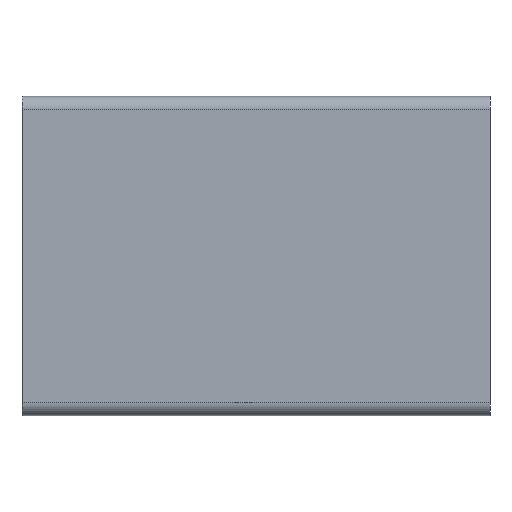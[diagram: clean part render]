
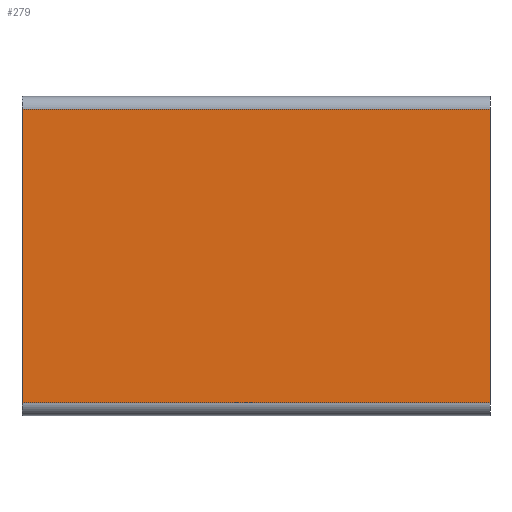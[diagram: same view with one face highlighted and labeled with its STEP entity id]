
A CAD part, front view. The second image highlights one B-rep face of the part: STEP entity #279.
In plain terms, the highlighted planar face has unit normal (0, -1, 0).
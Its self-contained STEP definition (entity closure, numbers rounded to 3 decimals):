
#39 = EDGE_CURVE('',#40,#42,#44,.T.);
#40 = VERTEX_POINT('',#41);
#41 = CARTESIAN_POINT('',(-11.,-0.75,-6.9));
#42 = VERTEX_POINT('',#43);
#43 = CARTESIAN_POINT('',(-11.,-0.75,6.9));
#44 = SURFACE_CURVE('',#45,(#49,#61),.PCURVE_S1.);
#45 = LINE('',#46,#47);
#46 = CARTESIAN_POINT('',(-11.,-0.75,-7.5));
#47 = VECTOR('',#48,1.);
#48 = DIRECTION('',(0.,0.,1.));
#49 = PCURVE('',#50,#55);
#50 = PLANE('',#51);
#51 = AXIS2_PLACEMENT_3D('',#52,#53,#54);
#52 = CARTESIAN_POINT('',(-11.,-0.75,-7.5));
#53 = DIRECTION('',(1.,0.,-0.));
#54 = DIRECTION('',(0.,0.,1.));
#55 = DEFINITIONAL_REPRESENTATION('',(#56),#60);
#56 = LINE('',#57,#58);
#57 = CARTESIAN_POINT('',(0.,0.));
#58 = VECTOR('',#59,1.);
#59 = DIRECTION('',(1.,0.));
#60 = ( GEOMETRIC_REPRESENTATION_CONTEXT(2) 
PARAMETRIC_REPRESENTATION_CONTEXT() REPRESENTATION_CONTEXT('2D SPACE',''
  ) );
#61 = PCURVE('',#62,#67);
#62 = PLANE('',#63);
#63 = AXIS2_PLACEMENT_3D('',#64,#65,#66);
#64 = CARTESIAN_POINT('',(-11.,-0.75,-7.5));
#65 = DIRECTION('',(-0.,1.,0.));
#66 = DIRECTION('',(0.,0.,1.));
#67 = DEFINITIONAL_REPRESENTATION('',(#68),#72);
#68 = LINE('',#69,#70);
#69 = CARTESIAN_POINT('',(0.,0.));
#70 = VECTOR('',#71,1.);
#71 = DIRECTION('',(1.,0.));
#72 = ( GEOMETRIC_REPRESENTATION_CONTEXT(2) 
PARAMETRIC_REPRESENTATION_CONTEXT() REPRESENTATION_CONTEXT('2D SPACE',''
  ) );
#91 = CYLINDRICAL_SURFACE('',#92,0.6);
#92 = AXIS2_PLACEMENT_3D('',#93,#94,#95);
#93 = CARTESIAN_POINT('',(-11.,-0.15,-6.9));
#94 = DIRECTION('',(1.,0.,-0.));
#95 = DIRECTION('',(0.,-1.,0.));
#268 = CYLINDRICAL_SURFACE('',#269,0.6);
#269 = AXIS2_PLACEMENT_3D('',#270,#271,#272);
#270 = CARTESIAN_POINT('',(-11.,-0.15,6.9));
#271 = DIRECTION('',(1.,0.,-0.));
#272 = DIRECTION('',(0.,-1.,0.));
#279 = ADVANCED_FACE('',(#280),#62,.F.);
#280 = FACE_BOUND('',#281,.F.);
#281 = EDGE_LOOP('',(#282,#312,#333,#334));
#282 = ORIENTED_EDGE('',*,*,#283,.F.);
#283 = EDGE_CURVE('',#284,#286,#288,.T.);
#284 = VERTEX_POINT('',#285);
#285 = CARTESIAN_POINT('',(11.,-0.75,-6.9));
#286 = VERTEX_POINT('',#287);
#287 = CARTESIAN_POINT('',(11.,-0.75,6.9));
#288 = SURFACE_CURVE('',#289,(#293,#300),.PCURVE_S1.);
#289 = LINE('',#290,#291);
#290 = CARTESIAN_POINT('',(11.,-0.75,-7.5));
#291 = VECTOR('',#292,1.);
#292 = DIRECTION('',(0.,0.,1.));
#293 = PCURVE('',#62,#294);
#294 = DEFINITIONAL_REPRESENTATION('',(#295),#299);
#295 = LINE('',#296,#297);
#296 = CARTESIAN_POINT('',(0.,22.));
#297 = VECTOR('',#298,1.);
#298 = DIRECTION('',(1.,0.));
#299 = ( GEOMETRIC_REPRESENTATION_CONTEXT(2) 
PARAMETRIC_REPRESENTATION_CONTEXT() REPRESENTATION_CONTEXT('2D SPACE',''
  ) );
#300 = PCURVE('',#301,#306);
#301 = PLANE('',#302);
#302 = AXIS2_PLACEMENT_3D('',#303,#304,#305);
#303 = CARTESIAN_POINT('',(11.,-0.75,-7.5));
#304 = DIRECTION('',(1.,0.,-0.));
#305 = DIRECTION('',(0.,0.,1.));
#306 = DEFINITIONAL_REPRESENTATION('',(#307),#311);
#307 = LINE('',#308,#309);
#308 = CARTESIAN_POINT('',(0.,0.));
#309 = VECTOR('',#310,1.);
#310 = DIRECTION('',(1.,0.));
#311 = ( GEOMETRIC_REPRESENTATION_CONTEXT(2) 
PARAMETRIC_REPRESENTATION_CONTEXT() REPRESENTATION_CONTEXT('2D SPACE',''
  ) );
#312 = ORIENTED_EDGE('',*,*,#313,.F.);
#313 = EDGE_CURVE('',#40,#284,#314,.T.);
#314 = SURFACE_CURVE('',#315,(#319,#326),.PCURVE_S1.);
#315 = LINE('',#316,#317);
#316 = CARTESIAN_POINT('',(-11.,-0.75,-6.9));
#317 = VECTOR('',#318,1.);
#318 = DIRECTION('',(1.,0.,-0.));
#319 = PCURVE('',#62,#320);
#320 = DEFINITIONAL_REPRESENTATION('',(#321),#325);
#321 = LINE('',#322,#323);
#322 = CARTESIAN_POINT('',(0.6,0.));
#323 = VECTOR('',#324,1.);
#324 = DIRECTION('',(0.,1.));
#325 = ( GEOMETRIC_REPRESENTATION_CONTEXT(2) 
PARAMETRIC_REPRESENTATION_CONTEXT() REPRESENTATION_CONTEXT('2D SPACE',''
  ) );
#326 = PCURVE('',#91,#327);
#327 = DEFINITIONAL_REPRESENTATION('',(#328),#332);
#328 = LINE('',#329,#330);
#329 = CARTESIAN_POINT('',(0.,0.));
#330 = VECTOR('',#331,1.);
#331 = DIRECTION('',(0.,1.));
#332 = ( GEOMETRIC_REPRESENTATION_CONTEXT(2) 
PARAMETRIC_REPRESENTATION_CONTEXT() REPRESENTATION_CONTEXT('2D SPACE',''
  ) );
#333 = ORIENTED_EDGE('',*,*,#39,.T.);
#334 = ORIENTED_EDGE('',*,*,#335,.T.);
#335 = EDGE_CURVE('',#42,#286,#336,.T.);
#336 = SURFACE_CURVE('',#337,(#341,#348),.PCURVE_S1.);
#337 = LINE('',#338,#339);
#338 = CARTESIAN_POINT('',(-11.,-0.75,6.9));
#339 = VECTOR('',#340,1.);
#340 = DIRECTION('',(1.,0.,-0.));
#341 = PCURVE('',#62,#342);
#342 = DEFINITIONAL_REPRESENTATION('',(#343),#347);
#343 = LINE('',#344,#345);
#344 = CARTESIAN_POINT('',(14.4,0.));
#345 = VECTOR('',#346,1.);
#346 = DIRECTION('',(0.,1.));
#347 = ( GEOMETRIC_REPRESENTATION_CONTEXT(2) 
PARAMETRIC_REPRESENTATION_CONTEXT() REPRESENTATION_CONTEXT('2D SPACE',''
  ) );
#348 = PCURVE('',#268,#349);
#349 = DEFINITIONAL_REPRESENTATION('',(#350),#354);
#350 = LINE('',#351,#352);
#351 = CARTESIAN_POINT('',(-0.,0.));
#352 = VECTOR('',#353,1.);
#353 = DIRECTION('',(-0.,1.));
#354 = ( GEOMETRIC_REPRESENTATION_CONTEXT(2) 
PARAMETRIC_REPRESENTATION_CONTEXT() REPRESENTATION_CONTEXT('2D SPACE',''
  ) );
